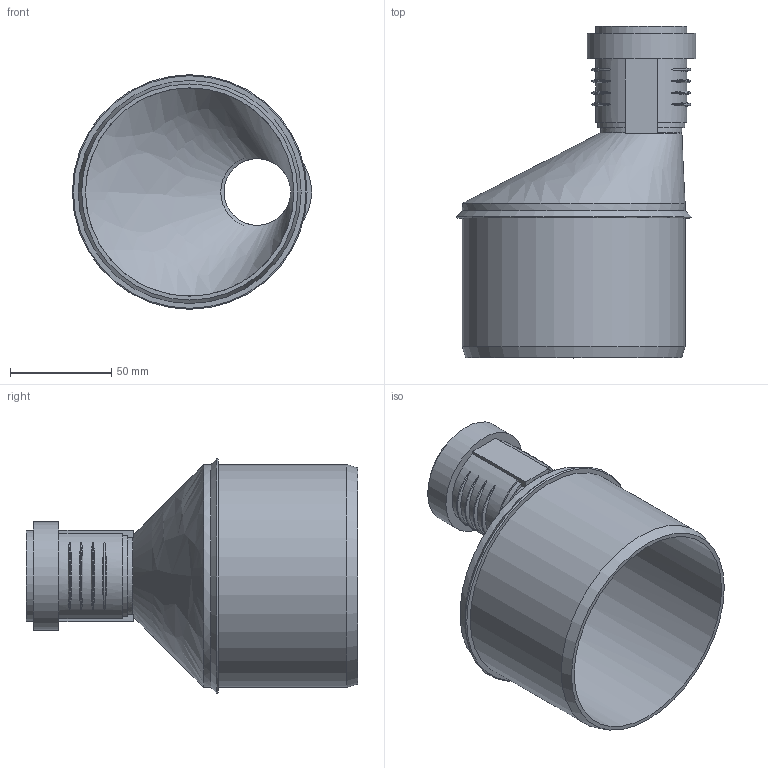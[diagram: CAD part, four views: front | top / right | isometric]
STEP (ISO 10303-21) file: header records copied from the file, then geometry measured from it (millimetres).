
FILE_DESCRIPTION(/* description */ (''),/* implementation_level */ '2;1');
FILE_NAME(/* name */ 'Z:\Geberit\Export\NewStep\390571.stp',/* time_stamp */ '2014-04-02T08:15:08+02:00',/* author */ ('ML'),/* organization */ (''),/* preprocessor_version */ 'ST-DEVELOPER v15.2',/* originating_system */ 'Autodesk Inventor 2014',/* authorisation */ '');
FILE_SCHEMA (('AUTOMOTIVE_DESIGN { 1 0 10303 214 3 1 1 }'));
Length unit declared in the file: millimetre
Products named in the file (3): 861307; 861400; 390571
Bounding box: 118.28 x 164 x 115.99 mm (x, y, z)
Volume: 141275.2 mm3; surface area: 97174.4 mm2
Topology: 2 solids, 2 shells, 68 faces, 162 edges, 112 vertices
Faces by surface type: torus 25, plane 20, cylinder 18, cone 3, bspline 2
Full cylindrical faces by diameter (mm): 32.95 x1, 36.15 x1, 40.15 x2, 41 x2, 45 x1, 49.7 x1, 53.7 x1, 103 x1, 110.2 x2
Entity records: 2598 total; most frequent: CARTESIAN_POINT 989, DIRECTION 296, ORIENTED_EDGE 290, EDGE_CURVE 145, AXIS2_PLACEMENT_3D 130, VERTEX_POINT 111, EDGE_LOOP 102, STYLED_ITEM 68
